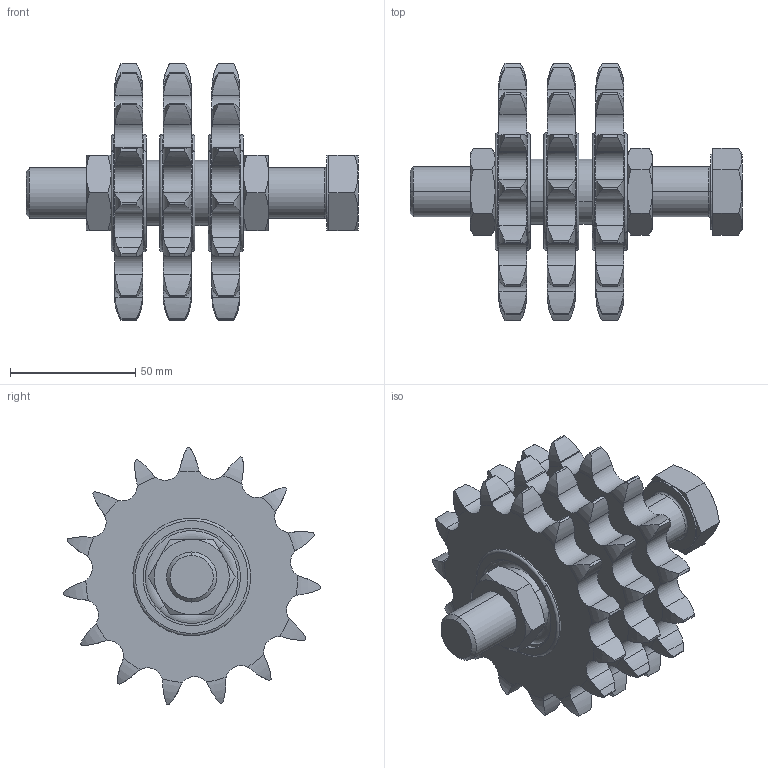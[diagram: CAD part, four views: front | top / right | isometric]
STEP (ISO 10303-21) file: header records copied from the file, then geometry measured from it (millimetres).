
FILE_DESCRIPTION (( 'STEP AP203' ), '1' );
FILE_NAME ('R 3-4T M20 cod. 94061923.STEP', '2017-07-28T14:37:20', ( '' ), ( '' ), 'SwSTEP 2.0', 'SolidWorks 2016', '' );
FILE_SCHEMA (( 'CONFIG_CONTROL_DESIGN' ));
Length unit declared in the file: millimetre
Products named in the file (6): DS 3-4 20-26-5.4; SKF - 6204 - 10,SI,NC,10_68_SKF - 6204 - 10,SI,NC,10_68; ISO 4017 - M20 x 120-C_ISO 4017 - M20 x 120-C; ISO - 4035 - M20 - N_ISO - 4035 - M20 - N; Chain wheel ISO - 15Z 12B-1 --15SA36.0N_Chain wheel ISO - 15Z 12B-1 --15SA48.0N; R 3-4T M20 cod. 94061923
Assembly tree (11 placements, depth 2):
  R 3-4T M20 cod. 94061923
    Chain wheel ISO - 15Z 12B-1 --15SA36.0N_Chain wheel ISO - 15Z 12B-1 --15SA48.0N  x3
    SKF - 6204 - 10,SI,NC,10_68_SKF - 6204 - 10,SI,NC,10_68  x3
    ISO 4017 - M20 x 120-C_ISO 4017 - M20 x 120-C
    ISO - 4035 - M20 - N_ISO - 4035 - M20 - N  x2
    DS 3-4 20-26-5.4  x2
Bounding box: 132.5 x 102.87 x 102.56 mm (x, y, z)
Volume: 273027.8 mm3; surface area: 88448.1 mm2
Topology: 11 solids, 11 shells, 487 faces, 1272 edges, 814 vertices
Faces by surface type: cylinder 266, torus 128, plane 53, cone 40
Entity records: 7276 total; most frequent: CARTESIAN_POINT 1961, ORIENTED_EDGE 976, DIRECTION 938, EDGE_CURVE 488, AXIS2_PLACEMENT_3D 407, VERTEX_POINT 308, EDGE_LOOP 204, CIRCLE 200
